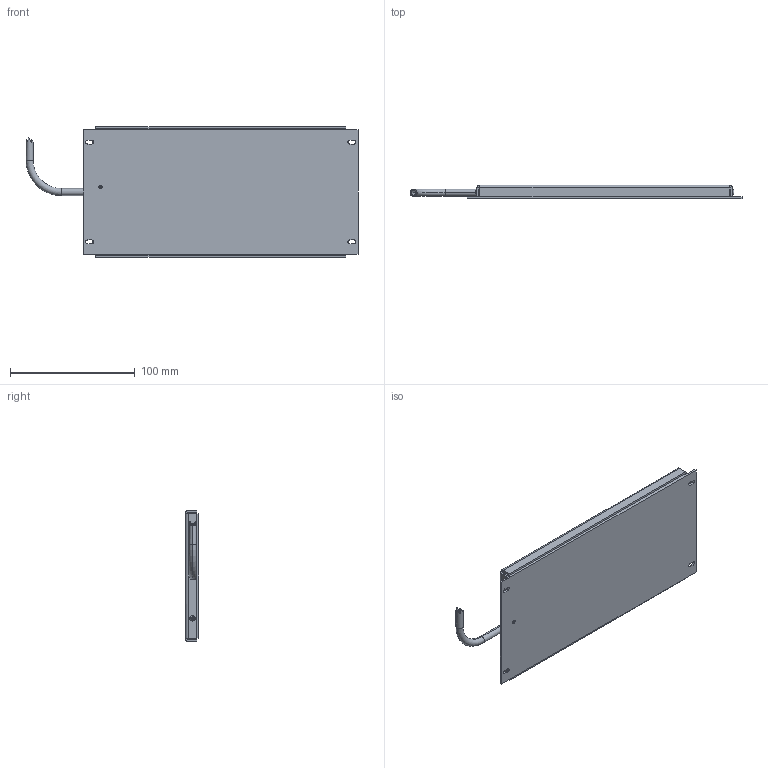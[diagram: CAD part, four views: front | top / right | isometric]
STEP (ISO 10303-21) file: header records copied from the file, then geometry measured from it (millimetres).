
FILE_DESCRIPTION (( 'STEP AP214' ), '1' );
FILE_NAME ('BT200100_Default.stp', '2021-05-04T13:46:03', ( '' ), ( '' ), 'SwSTEP 2.0', 'SolidWorks 2018', '' );
FILE_SCHEMA (( 'AUTOMOTIVE_DESIGN' ));
Length unit declared in the file: inch
Products named in the file (9): 097865_97763A314; 092408_TRUNCATED; 092823_Default<As Machined>; 093470_DEFAULT; 90073A011; 092768_Default<As Machined>; 093306_Default<As Machined>; 091052 (BT200100); BT200100_Default
Assembly tree (11 placements, depth 2):
  BT200100_Default
    092823_Default<As Machined>
    093470_DEFAULT
    90073A011
    093306_Default<As Machined>
    092768_Default<As Machined>
    097865_97763A314  x4
    091052 (BT200100)
    092408_TRUNCATED
Bounding box: 265.96 x 11 x 104.72 mm (x, y, z)
Volume: 88301.1 mm3; surface area: 119227.4 mm2
Topology: 18 solids, 18 shells, 769 faces, 1936 edges, 1227 vertices
Faces by surface type: plane 373, cylinder 217, cone 91, bspline 76, sphere 8, torus 4
Entity records: 33459 total; most frequent: CARTESIAN_POINT 15904, ORIENTED_EDGE 2960, DIRECTION 2495, EDGE_CURVE 1480, VERTEX_POINT 957, LINE 943, VECTOR 943, AXIS2_PLACEMENT_3D 776
